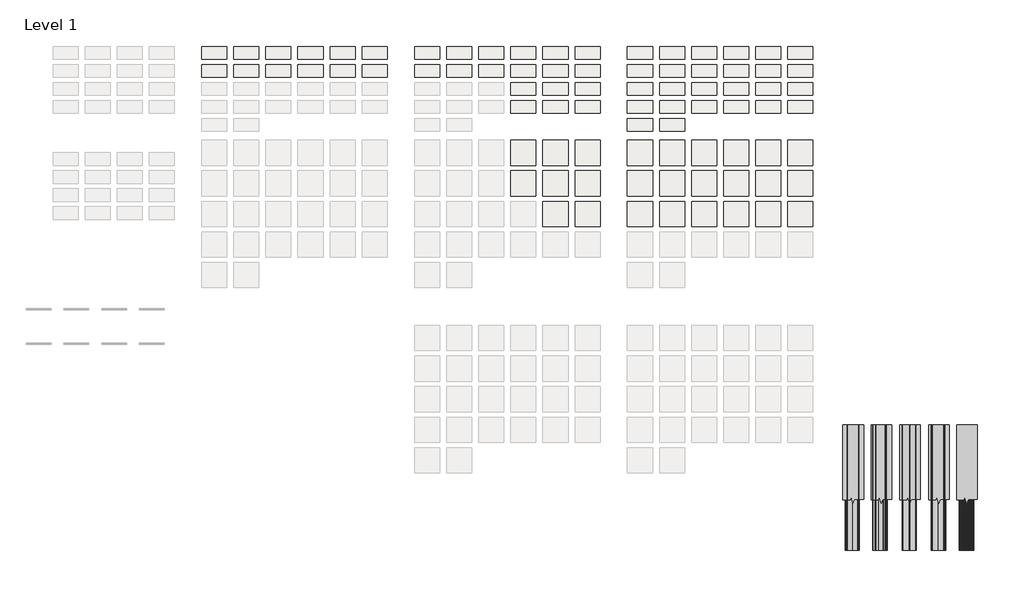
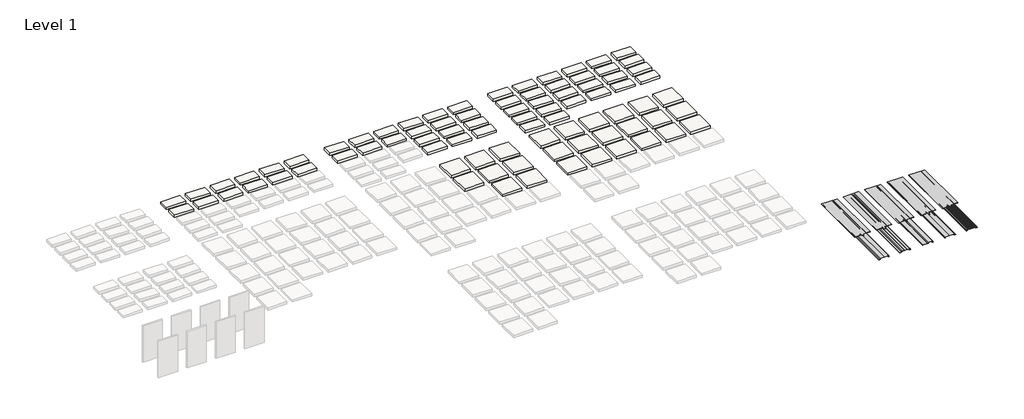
# One storey, part 3 of 3: 82 slabs, 10 proxies.
"""IFC4 building model written with IfcOpenShell, lengths in millimetres."""

from ifc_helpers import new_model, si_unit, frame, origin, place, context, project, spatial, polyline, outline, extrude, transform, mapped, element, save
from components import prestige_series_1in_reveal_flat_panel_aep_span_prestige_8d7ce070, proxy_11bd0d3a, proxy_4d0380a3, prestige_series_no_reveal_flat_panel_aep_span_prestige_570cf8c1, prestige_series_no_reveal_wave_panel_aep_span_prestige_fcddb1ef, section_mask1_section_mask_05ade613, section_mask5_section_mask_89c82928

model = new_model("IFC4")

# Units and contexts
model_context = context("Model", 3, world=origin())
ifc_project = project(units=[si_unit("LENGTHUNIT", "METRE", prefix="MILLI")], contexts=[model_context])

# Site, building, storey
site = spatial("IfcSite", under=ifc_project)
building = spatial("IfcBuilding", under=site)
storey = spatial("IfcBuildingStorey", under=building, Name="Level 1", Elevation=19.05)

# Proxies
placement = place(None, origin())
prestige_series_1in_reveal_flat_panel_aep_span_prestige_shape = prestige_series_1in_reveal_flat_panel_aep_span_prestige_8d7ce070(model_context)
element("IfcBuildingElementProxy", 1, Name="Prestige-Series_1in-Reveal-Flat_Panel_AEP_Span : Prestige Series - 1in Reveal-Flat - 20ga", ObjectType="Prestige-Series_1in-Reveal-Flat_Panel_AEP_Span : Prestige Series - 1in Reveal-Flat - 20ga", at=placement, inside=storey, context=model_context, shape_type="MappedRepresentation", body=[
    mapped(prestige_series_1in_reveal_flat_panel_aep_span_prestige_shape, transform((16097.9412041, -586.3012025, 19.05), x_axis=(1.0, 0.0, 0.0), y_axis=(0.0, 1.0, 0.0), z_axis=(0.0, 0.0, 1.0))),
])
proxy_shape = proxy_11bd0d3a(model_context)
element("IfcBuildingElementProxy", 2, Name="Prestige-Series_2in-Reveal-2-Pencil-Ribs_Panel_AEP_Span : Prestige Series - 2\" Reveal-2 Pencil Ribs - 20ga", ObjectType="Prestige-Series_2in-Reveal-2-Pencil-Ribs_Panel_AEP_Span : Prestige Series - 2\" Reveal-2 Pencil Ribs - 20ga", at=placement, inside=storey, context=model_context, shape_type="MappedRepresentation", body=[
    mapped(proxy_shape, transform((16779.048754, -586.3012025, 19.05), x_axis=(1.0, 0.0, 0.0), y_axis=(0.0, 1.0, 0.0), z_axis=(0.0, 0.0, 1.0))),
])
proxy_2_shape = proxy_4d0380a3(model_context)
element("IfcBuildingElementProxy", 3, Name="Prestige-Series_6in-Reveal-Flat_Panel_AEP_Span : Prestige Series - 6\" Reveal - 20ga", ObjectType="Prestige-Series_6in-Reveal-Flat_Panel_AEP_Span : Prestige Series - 6\" Reveal - 20ga", at=placement, inside=storey, context=model_context, shape_type="MappedRepresentation", body=[
    mapped(proxy_2_shape, transform((17478.2196079, -586.3012025, 19.05), x_axis=(1.0, 0.0, 0.0), y_axis=(0.0, 1.0, 0.0), z_axis=(0.0, 0.0, 1.0))),
])
prestige_series_no_reveal_flat_panel_aep_span_prestige_shape = prestige_series_no_reveal_flat_panel_aep_span_prestige_570cf8c1(model_context)
element("IfcBuildingElementProxy", 4, Name="Prestige-Series_No-Reveal-Flat_Panel_AEP_Span : Prestige Series - No Reveal-Flat - 20ga", ObjectType="Prestige-Series_No-Reveal-Flat_Panel_AEP_Span : Prestige Series - No Reveal-Flat - 20ga", at=placement, inside=storey, context=model_context, shape_type="MappedRepresentation", body=[
    mapped(prestige_series_no_reveal_flat_panel_aep_span_prestige_shape, transform((18177.3904619, -586.3012025, 19.05), x_axis=(1.0, 0.0, 0.0), y_axis=(0.0, 1.0, 0.0), z_axis=(0.0, 0.0, 1.0))),
])
prestige_series_no_reveal_wave_panel_aep_span_prestige_shape = prestige_series_no_reveal_wave_panel_aep_span_prestige_fcddb1ef(model_context)
element("IfcBuildingElementProxy", 5, Name="Prestige-Series_No-Reveal-Wave_Panel_AEP_Span : Prestige-Series_No-Reveal-Wave_Panel_AEP_Span", ObjectType="Prestige-Series_No-Reveal-Wave_Panel_AEP_Span : Prestige-Series_No-Reveal-Wave_Panel_AEP_Span", at=placement, inside=storey, context=model_context, shape_type="MappedRepresentation", body=[
    mapped(prestige_series_no_reveal_wave_panel_aep_span_prestige_shape, transform((18864.1254707, -586.3012025, 19.05), x_axis=(1.0, 0.0, 0.0), y_axis=(0.0, 1.0, 0.0), z_axis=(0.0, 0.0, 1.0))),
])
section_mask1_section_mask_shape = section_mask1_section_mask_05ade613(model_context)
element("IfcBuildingElementProxy", 6, Name="Section Mask1 : Section Mask", ObjectType="Section Mask1 : Section Mask", at=placement, inside=storey, context=model_context, shape_type="MappedRepresentation", body=[
    mapped(section_mask1_section_mask_shape, transform((8596.5810731, -3047.164951, -3.175), x_axis=(1.0, 0.0, 0.0), y_axis=(0.0, 1.0, 0.0), z_axis=(0.0, 0.0, 1.0))),
])
element("IfcBuildingElementProxy", 7, Name="Section Mask2 : Section Mask", ObjectType="Section Mask2 : Section Mask", at=placement, inside=storey, context=model_context, shape_type="MappedRepresentation", body=[
    mapped(section_mask1_section_mask_shape, transform((9287.3673346, -3047.164951, -3.175), x_axis=(1.0, 0.0, 0.0), y_axis=(0.0, 1.0, 0.0), z_axis=(0.0, 0.0, 1.0))),
])
element("IfcBuildingElementProxy", 8, Name="Section Mask3 : Section Mask", ObjectType="Section Mask3 : Section Mask", at=placement, inside=storey, context=model_context, shape_type="MappedRepresentation", body=[
    mapped(section_mask1_section_mask_shape, transform((7906.8362009, -3047.164951, -3.175), x_axis=(1.0, 0.0, 0.0), y_axis=(0.0, 1.0, 0.0), z_axis=(0.0, 0.0, 1.0))),
])
element("IfcBuildingElementProxy", 9, Name="Section Mask4 : Section Mask", ObjectType="Section Mask4 : Section Mask", at=placement, inside=storey, context=model_context, shape_type="MappedRepresentation", body=[
    mapped(section_mask1_section_mask_shape, transform((9992.2173346, -3047.164951, -3.175), x_axis=(1.0, 0.0, 0.0), y_axis=(0.0, 1.0, 0.0), z_axis=(0.0, 0.0, 1.0))),
])
section_mask5_section_mask_shape = section_mask5_section_mask_89c82928(model_context)
element("IfcBuildingElementProxy", 10, Name="Section Mask5 : Section Mask", ObjectType="Section Mask5 : Section Mask", at=placement, inside=storey, context=model_context, shape_type="MappedRepresentation", body=[
    mapped(section_mask5_section_mask_shape, transform((10678.0173346, -3047.164951, -3.175), x_axis=(1.0, 0.0, 0.0), y_axis=(0.0, 1.0, 0.0), z_axis=(0.0, 0.0, 1.0))),
])

# Slabs
element("IfcSlab", 11, ObjectType="AEP Span Material Sample", at=placement, inside=storey, context=model_context, shape_type="SweptSolid", body=[
    extrude(outline(polyline([(857.9412041, 8327.6021167), (248.3412041, 8327.6021167), (248.3412041, 8632.4021167), (857.9412041, 8632.4021167), (857.9412041, 8327.6021167)])), frame((0.0, 0.0, -60.325), z_axis=(0.0, 0.0, 1.0), x_axis=(1.0, 0.0, 0.0)), (0.0, 0.0, 1.0), 79.375),
])
element("IfcSlab", 12, ObjectType="AEP Span Material Sample", at=placement, inside=storey, context=model_context, shape_type="SweptSolid", body=[
    extrude(outline(polyline([(1638.9912041, 8327.6021167), (1029.3912041, 8327.6021167), (1029.3912041, 8632.4021167), (1638.9912041, 8632.4021167), (1638.9912041, 8327.6021167)])), frame((0.0, 0.0, -60.325), z_axis=(0.0, 0.0, 1.0), x_axis=(1.0, 0.0, 0.0)), (0.0, 0.0, 1.0), 79.375),
])
element("IfcSlab", 13, ObjectType="AEP Span Material Sample", at=placement, inside=storey, context=model_context, shape_type="SweptSolid", body=[
    extrude(outline(polyline([(2420.0412041, 8327.6021167), (1810.4412041, 8327.6021167), (1810.4412041, 8632.4021167), (2420.0412041, 8632.4021167), (2420.0412041, 8327.6021167)])), frame((0.0, 0.0, -60.325), z_axis=(0.0, 0.0, 1.0), x_axis=(1.0, 0.0, 0.0)), (0.0, 0.0, 1.0), 79.375),
])
element("IfcSlab", 14, ObjectType="AEP Span Material Sample", at=placement, inside=storey, context=model_context, shape_type="SweptSolid", body=[
    extrude(outline(polyline([(3201.0912041, 8327.6021167), (2591.4912041, 8327.6021167), (2591.4912041, 8632.4021167), (3201.0912041, 8632.4021167), (3201.0912041, 8327.6021167)])), frame((0.0, 0.0, -60.325), z_axis=(0.0, 0.0, 1.0), x_axis=(1.0, 0.0, 0.0)), (0.0, 0.0, 1.0), 79.375),
])
element("IfcSlab", 15, ObjectType="AEP Span Material Sample", at=placement, inside=storey, context=model_context, shape_type="SweptSolid", body=[
    extrude(outline(polyline([(3982.1412041, 8327.6021167), (3372.5412041, 8327.6021167), (3372.5412041, 8632.4021167), (3982.1412041, 8632.4021167), (3982.1412041, 8327.6021167)])), frame((0.0, 0.0, -60.325), z_axis=(0.0, 0.0, 1.0), x_axis=(1.0, 0.0, 0.0)), (0.0, 0.0, 1.0), 79.375),
])
element("IfcSlab", 16, ObjectType="AEP Span Material Sample", at=placement, inside=storey, context=model_context, shape_type="SweptSolid", body=[
    extrude(outline(polyline([(4763.1912041, 8327.6021167), (4153.5912041, 8327.6021167), (4153.5912041, 8632.4021167), (4763.1912041, 8632.4021167), (4763.1912041, 8327.6021167)])), frame((0.0, 0.0, -60.325), z_axis=(0.0, 0.0, 1.0), x_axis=(1.0, 0.0, 0.0)), (0.0, 0.0, 1.0), 79.375),
])
element("IfcSlab", 17, ObjectType="AEP Span Material Sample", at=placement, inside=storey, context=model_context, shape_type="SweptSolid", body=[
    extrude(outline(polyline([(857.9412041, 7889.4521167), (248.3412041, 7889.4521167), (248.3412041, 8194.2521167), (857.9412041, 8194.2521167), (857.9412041, 7889.4521167)])), frame((0.0, 0.0, -60.325), z_axis=(0.0, 0.0, 1.0), x_axis=(1.0, 0.0, 0.0)), (0.0, 0.0, 1.0), 79.375),
])
element("IfcSlab", 18, ObjectType="AEP Span Material Sample", at=placement, inside=storey, context=model_context, shape_type="SweptSolid", body=[
    extrude(outline(polyline([(1638.9912041, 7889.4521167), (1029.3912041, 7889.4521167), (1029.3912041, 8194.2521167), (1638.9912041, 8194.2521167), (1638.9912041, 7889.4521167)])), frame((0.0, 0.0, -60.325), z_axis=(0.0, 0.0, 1.0), x_axis=(1.0, 0.0, 0.0)), (0.0, 0.0, 1.0), 79.375),
])
element("IfcSlab", 19, ObjectType="AEP Span Material Sample", at=placement, inside=storey, context=model_context, shape_type="SweptSolid", body=[
    extrude(outline(polyline([(2420.0412041, 7889.4521167), (1810.4412041, 7889.4521167), (1810.4412041, 8194.2521167), (2420.0412041, 8194.2521167), (2420.0412041, 7889.4521167)])), frame((0.0, 0.0, -60.325), z_axis=(0.0, 0.0, 1.0), x_axis=(1.0, 0.0, 0.0)), (0.0, 0.0, 1.0), 79.375),
])
element("IfcSlab", 20, ObjectType="AEP Span Material Sample", at=placement, inside=storey, context=model_context, shape_type="SweptSolid", body=[
    extrude(outline(polyline([(3201.0912041, 7889.4521167), (2591.4912041, 7889.4521167), (2591.4912041, 8194.2521167), (3201.0912041, 8194.2521167), (3201.0912041, 7889.4521167)])), frame((0.0, 0.0, -60.325), z_axis=(0.0, 0.0, 1.0), x_axis=(1.0, 0.0, 0.0)), (0.0, 0.0, 1.0), 79.375),
])
element("IfcSlab", 21, ObjectType="AEP Span Material Sample", at=placement, inside=storey, context=model_context, shape_type="SweptSolid", body=[
    extrude(outline(polyline([(3982.1412041, 7889.4521167), (3372.5412041, 7889.4521167), (3372.5412041, 8194.2521167), (3982.1412041, 8194.2521167), (3982.1412041, 7889.4521167)])), frame((0.0, 0.0, -60.325), z_axis=(0.0, 0.0, 1.0), x_axis=(1.0, 0.0, 0.0)), (0.0, 0.0, 1.0), 79.375),
])
element("IfcSlab", 22, ObjectType="AEP Span Material Sample", at=placement, inside=storey, context=model_context, shape_type="SweptSolid", body=[
    extrude(outline(polyline([(4763.1912041, 7889.4521167), (4153.5912041, 7889.4521167), (4153.5912041, 8194.2521167), (4763.1912041, 8194.2521167), (4763.1912041, 7889.4521167)])), frame((0.0, 0.0, -60.325), z_axis=(0.0, 0.0, 1.0), x_axis=(1.0, 0.0, 0.0)), (0.0, 0.0, 1.0), 79.375),
])
element("IfcSlab", 23, ObjectType="AEP Span Material Sample", at=placement, inside=storey, context=model_context, shape_type="SweptSolid", body=[
    extrude(outline(polyline([(6040.5423483, 8327.6021167), (5430.9423483, 8327.6021167), (5430.9423483, 8632.4021167), (6040.5423483, 8632.4021167), (6040.5423483, 8327.6021167)])), frame((0.0, 0.0, -60.325), z_axis=(0.0, 0.0, 1.0), x_axis=(1.0, 0.0, 0.0)), (0.0, 0.0, 1.0), 79.375),
])
element("IfcSlab", 24, ObjectType="AEP Span Material Sample", at=placement, inside=storey, context=model_context, shape_type="SweptSolid", body=[
    extrude(outline(polyline([(6821.5923483, 8327.6021167), (6211.9923483, 8327.6021167), (6211.9923483, 8632.4021167), (6821.5923483, 8632.4021167), (6821.5923483, 8327.6021167)])), frame((0.0, 0.0, -60.325), z_axis=(0.0, 0.0, 1.0), x_axis=(1.0, 0.0, 0.0)), (0.0, 0.0, 1.0), 79.375),
])
element("IfcSlab", 25, ObjectType="AEP Span Material Sample", at=placement, inside=storey, context=model_context, shape_type="SweptSolid", body=[
    extrude(outline(polyline([(7602.6423483, 8327.6021167), (6993.0423483, 8327.6021167), (6993.0423483, 8632.4021167), (7602.6423483, 8632.4021167), (7602.6423483, 8327.6021167)])), frame((0.0, 0.0, -60.325), z_axis=(0.0, 0.0, 1.0), x_axis=(1.0, 0.0, 0.0)), (0.0, 0.0, 1.0), 79.375),
])
element("IfcSlab", 26, ObjectType="AEP Span Material Sample", at=placement, inside=storey, context=model_context, shape_type="SweptSolid", body=[
    extrude(outline(polyline([(8383.6923483, 8327.6021167), (7774.0923483, 8327.6021167), (7774.0923483, 8632.4021167), (8383.6923483, 8632.4021167), (8383.6923483, 8327.6021167)])), frame((0.0, 0.0, -60.325), z_axis=(0.0, 0.0, 1.0), x_axis=(1.0, 0.0, 0.0)), (0.0, 0.0, 1.0), 79.375),
])
element("IfcSlab", 27, ObjectType="AEP Span Material Sample", at=placement, inside=storey, context=model_context, shape_type="SweptSolid", body=[
    extrude(outline(polyline([(9164.7423483, 8327.6021167), (8555.1423483, 8327.6021167), (8555.1423483, 8632.4021167), (9164.7423483, 8632.4021167), (9164.7423483, 8327.6021167)])), frame((0.0, 0.0, -60.325), z_axis=(0.0, 0.0, 1.0), x_axis=(1.0, 0.0, 0.0)), (0.0, 0.0, 1.0), 79.375),
])
element("IfcSlab", 28, ObjectType="AEP Span Material Sample", at=placement, inside=storey, context=model_context, shape_type="SweptSolid", body=[
    extrude(outline(polyline([(9945.7923483, 8327.6021167), (9336.1923483, 8327.6021167), (9336.1923483, 8632.4021167), (9945.7923483, 8632.4021167), (9945.7923483, 8327.6021167)])), frame((0.0, 0.0, -60.325), z_axis=(0.0, 0.0, 1.0), x_axis=(1.0, 0.0, 0.0)), (0.0, 0.0, 1.0), 79.375),
])
element("IfcSlab", 29, ObjectType="AEP Span Material Sample", at=placement, inside=storey, context=model_context, shape_type="SweptSolid", body=[
    extrude(outline(polyline([(6040.5423483, 7889.4521167), (5430.9423483, 7889.4521167), (5430.9423483, 8194.2521167), (6040.5423483, 8194.2521167), (6040.5423483, 7889.4521167)])), frame((0.0, 0.0, -60.325), z_axis=(0.0, 0.0, 1.0), x_axis=(1.0, 0.0, 0.0)), (0.0, 0.0, 1.0), 79.375),
])
element("IfcSlab", 30, ObjectType="AEP Span Material Sample", at=placement, inside=storey, context=model_context, shape_type="SweptSolid", body=[
    extrude(outline(polyline([(6821.5923483, 7889.4521167), (6211.9923483, 7889.4521167), (6211.9923483, 8194.2521167), (6821.5923483, 8194.2521167), (6821.5923483, 7889.4521167)])), frame((0.0, 0.0, -60.325), z_axis=(0.0, 0.0, 1.0), x_axis=(1.0, 0.0, 0.0)), (0.0, 0.0, 1.0), 79.375),
])
element("IfcSlab", 31, ObjectType="AEP Span Material Sample", at=placement, inside=storey, context=model_context, shape_type="SweptSolid", body=[
    extrude(outline(polyline([(7602.6423483, 7889.4521167), (6993.0423483, 7889.4521167), (6993.0423483, 8194.2521167), (7602.6423483, 8194.2521167), (7602.6423483, 7889.4521167)])), frame((0.0, 0.0, -60.325), z_axis=(0.0, 0.0, 1.0), x_axis=(1.0, 0.0, 0.0)), (0.0, 0.0, 1.0), 79.375),
])
element("IfcSlab", 32, ObjectType="AEP Span Material Sample", at=placement, inside=storey, context=model_context, shape_type="SweptSolid", body=[
    extrude(outline(polyline([(8383.6923483, 7889.4521167), (7774.0923483, 7889.4521167), (7774.0923483, 8194.2521167), (8383.6923483, 8194.2521167), (8383.6923483, 7889.4521167)])), frame((0.0, 0.0, -60.325), z_axis=(0.0, 0.0, 1.0), x_axis=(1.0, 0.0, 0.0)), (0.0, 0.0, 1.0), 79.375),
])
element("IfcSlab", 33, ObjectType="AEP Span Material Sample", at=placement, inside=storey, context=model_context, shape_type="SweptSolid", body=[
    extrude(outline(polyline([(9164.7423483, 7889.4521167), (8555.1423483, 7889.4521167), (8555.1423483, 8194.2521167), (9164.7423483, 8194.2521167), (9164.7423483, 7889.4521167)])), frame((0.0, 0.0, -60.325), z_axis=(0.0, 0.0, 1.0), x_axis=(1.0, 0.0, 0.0)), (0.0, 0.0, 1.0), 79.375),
])
element("IfcSlab", 34, ObjectType="AEP Span Material Sample", at=placement, inside=storey, context=model_context, shape_type="SweptSolid", body=[
    extrude(outline(polyline([(9945.7923483, 7889.4521167), (9336.1923483, 7889.4521167), (9336.1923483, 8194.2521167), (9945.7923483, 8194.2521167), (9945.7923483, 7889.4521167)])), frame((0.0, 0.0, -60.325), z_axis=(0.0, 0.0, 1.0), x_axis=(1.0, 0.0, 0.0)), (0.0, 0.0, 1.0), 79.375),
])
element("IfcSlab", 35, ObjectType="AEP Span Material Sample", at=placement, inside=storey, context=model_context, shape_type="SweptSolid", body=[
    extrude(outline(polyline([(8383.6923483, 7451.3021167), (7774.0923483, 7451.3021167), (7774.0923483, 7756.1021167), (8383.6923483, 7756.1021167), (8383.6923483, 7451.3021167)])), frame((0.0, 0.0, -60.325), z_axis=(0.0, 0.0, 1.0), x_axis=(1.0, 0.0, 0.0)), (0.0, 0.0, 1.0), 79.375),
])
element("IfcSlab", 36, ObjectType="AEP Span Material Sample", at=placement, inside=storey, context=model_context, shape_type="SweptSolid", body=[
    extrude(outline(polyline([(9164.7423483, 7451.3021167), (8555.1423483, 7451.3021167), (8555.1423483, 7756.1021167), (9164.7423483, 7756.1021167), (9164.7423483, 7451.3021167)])), frame((0.0, 0.0, -60.325), z_axis=(0.0, 0.0, 1.0), x_axis=(1.0, 0.0, 0.0)), (0.0, 0.0, 1.0), 79.375),
])
element("IfcSlab", 37, ObjectType="AEP Span Material Sample", at=placement, inside=storey, context=model_context, shape_type="SweptSolid", body=[
    extrude(outline(polyline([(9945.7923483, 7451.3021167), (9336.1923483, 7451.3021167), (9336.1923483, 7756.1021167), (9945.7923483, 7756.1021167), (9945.7923483, 7451.3021167)])), frame((0.0, 0.0, -60.325), z_axis=(0.0, 0.0, 1.0), x_axis=(1.0, 0.0, 0.0)), (0.0, 0.0, 1.0), 79.375),
])
element("IfcSlab", 38, ObjectType="AEP Span Material Sample", at=placement, inside=storey, context=model_context, shape_type="SweptSolid", body=[
    extrude(outline(polyline([(8383.6923483, 7013.1521167), (7774.0923483, 7013.1521167), (7774.0923483, 7317.9521167), (8383.6923483, 7317.9521167), (8383.6923483, 7013.1521167)])), frame((0.0, 0.0, -60.325), z_axis=(0.0, 0.0, 1.0), x_axis=(1.0, 0.0, 0.0)), (0.0, 0.0, 1.0), 79.375),
])
element("IfcSlab", 39, ObjectType="AEP Span Material Sample", at=placement, inside=storey, context=model_context, shape_type="SweptSolid", body=[
    extrude(outline(polyline([(9164.7423483, 7013.1521167), (8555.1423483, 7013.1521167), (8555.1423483, 7317.9521167), (9164.7423483, 7317.9521167), (9164.7423483, 7013.1521167)])), frame((0.0, 0.0, -60.325), z_axis=(0.0, 0.0, 1.0), x_axis=(1.0, 0.0, 0.0)), (0.0, 0.0, 1.0), 79.375),
])
element("IfcSlab", 40, ObjectType="AEP Span Material Sample", at=placement, inside=storey, context=model_context, shape_type="SweptSolid", body=[
    extrude(outline(polyline([(9945.7923483, 7013.1521167), (9336.1923483, 7013.1521167), (9336.1923483, 7317.9521167), (9945.7923483, 7317.9521167), (9945.7923483, 7013.1521167)])), frame((0.0, 0.0, -60.325), z_axis=(0.0, 0.0, 1.0), x_axis=(1.0, 0.0, 0.0)), (0.0, 0.0, 1.0), 79.375),
])
element("IfcSlab", 41, ObjectType="AEP Span Material Sample", at=placement, inside=storey, context=model_context, shape_type="SweptSolid", body=[
    extrude(outline(polyline([(11221.1412041, 8327.6021167), (10611.5412041, 8327.6021167), (10611.5412041, 8632.4021167), (11221.1412041, 8632.4021167), (11221.1412041, 8327.6021167)])), frame((0.0, 0.0, -60.325), z_axis=(0.0, 0.0, 1.0), x_axis=(1.0, 0.0, 0.0)), (0.0, 0.0, 1.0), 79.375),
])
element("IfcSlab", 42, ObjectType="AEP Span Material Sample", at=placement, inside=storey, context=model_context, shape_type="SweptSolid", body=[
    extrude(outline(polyline([(12002.1912041, 8327.6021167), (11392.5912041, 8327.6021167), (11392.5912041, 8632.4021167), (12002.1912041, 8632.4021167), (12002.1912041, 8327.6021167)])), frame((0.0, 0.0, -60.325), z_axis=(0.0, 0.0, 1.0), x_axis=(1.0, 0.0, 0.0)), (0.0, 0.0, 1.0), 79.375),
])
element("IfcSlab", 43, ObjectType="AEP Span Material Sample", at=placement, inside=storey, context=model_context, shape_type="SweptSolid", body=[
    extrude(outline(polyline([(12783.2412041, 8327.6021167), (12173.6412041, 8327.6021167), (12173.6412041, 8632.4021167), (12783.2412041, 8632.4021167), (12783.2412041, 8327.6021167)])), frame((0.0, 0.0, -60.325), z_axis=(0.0, 0.0, 1.0), x_axis=(1.0, 0.0, 0.0)), (0.0, 0.0, 1.0), 79.375),
])
element("IfcSlab", 44, ObjectType="AEP Span Material Sample", at=placement, inside=storey, context=model_context, shape_type="SweptSolid", body=[
    extrude(outline(polyline([(13564.2912041, 8327.6021167), (12954.6912041, 8327.6021167), (12954.6912041, 8632.4021167), (13564.2912041, 8632.4021167), (13564.2912041, 8327.6021167)])), frame((0.0, 0.0, -60.325), z_axis=(0.0, 0.0, 1.0), x_axis=(1.0, 0.0, 0.0)), (0.0, 0.0, 1.0), 79.375),
])
element("IfcSlab", 45, ObjectType="AEP Span Material Sample", at=placement, inside=storey, context=model_context, shape_type="SweptSolid", body=[
    extrude(outline(polyline([(14345.3412041, 8327.6021167), (13735.7412041, 8327.6021167), (13735.7412041, 8632.4021167), (14345.3412041, 8632.4021167), (14345.3412041, 8327.6021167)])), frame((0.0, 0.0, -60.325), z_axis=(0.0, 0.0, 1.0), x_axis=(1.0, 0.0, 0.0)), (0.0, 0.0, 1.0), 79.375),
])
element("IfcSlab", 46, ObjectType="AEP Span Material Sample", at=placement, inside=storey, context=model_context, shape_type="SweptSolid", body=[
    extrude(outline(polyline([(15126.3912041, 8327.6021167), (14516.7912041, 8327.6021167), (14516.7912041, 8632.4021167), (15126.3912041, 8632.4021167), (15126.3912041, 8327.6021167)])), frame((0.0, 0.0, -60.325), z_axis=(0.0, 0.0, 1.0), x_axis=(1.0, 0.0, 0.0)), (0.0, 0.0, 1.0), 79.375),
])
element("IfcSlab", 47, ObjectType="AEP Span Material Sample", at=placement, inside=storey, context=model_context, shape_type="SweptSolid", body=[
    extrude(outline(polyline([(11221.1412041, 7889.4521167), (10611.5412041, 7889.4521167), (10611.5412041, 8194.2521167), (11221.1412041, 8194.2521167), (11221.1412041, 7889.4521167)])), frame((0.0, 0.0, -60.325), z_axis=(0.0, 0.0, 1.0), x_axis=(1.0, 0.0, 0.0)), (0.0, 0.0, 1.0), 79.375),
])
element("IfcSlab", 48, ObjectType="AEP Span Material Sample", at=placement, inside=storey, context=model_context, shape_type="SweptSolid", body=[
    extrude(outline(polyline([(12002.1912041, 7889.4521167), (11392.5912041, 7889.4521167), (11392.5912041, 8194.2521167), (12002.1912041, 8194.2521167), (12002.1912041, 7889.4521167)])), frame((0.0, 0.0, -60.325), z_axis=(0.0, 0.0, 1.0), x_axis=(1.0, 0.0, 0.0)), (0.0, 0.0, 1.0), 79.375),
])
element("IfcSlab", 49, ObjectType="AEP Span Material Sample", at=placement, inside=storey, context=model_context, shape_type="SweptSolid", body=[
    extrude(outline(polyline([(12783.2412041, 7889.4521167), (12173.6412041, 7889.4521167), (12173.6412041, 8194.2521167), (12783.2412041, 8194.2521167), (12783.2412041, 7889.4521167)])), frame((0.0, 0.0, -60.325), z_axis=(0.0, 0.0, 1.0), x_axis=(1.0, 0.0, 0.0)), (0.0, 0.0, 1.0), 79.375),
])
element("IfcSlab", 50, ObjectType="AEP Span Material Sample", at=placement, inside=storey, context=model_context, shape_type="SweptSolid", body=[
    extrude(outline(polyline([(13564.2912041, 7889.4521167), (12954.6912041, 7889.4521167), (12954.6912041, 8194.2521167), (13564.2912041, 8194.2521167), (13564.2912041, 7889.4521167)])), frame((0.0, 0.0, -60.325), z_axis=(0.0, 0.0, 1.0), x_axis=(1.0, 0.0, 0.0)), (0.0, 0.0, 1.0), 79.375),
])
element("IfcSlab", 51, ObjectType="AEP Span Material Sample", at=placement, inside=storey, context=model_context, shape_type="SweptSolid", body=[
    extrude(outline(polyline([(14345.3412041, 7889.4521167), (13735.7412041, 7889.4521167), (13735.7412041, 8194.2521167), (14345.3412041, 8194.2521167), (14345.3412041, 7889.4521167)])), frame((0.0, 0.0, -60.325), z_axis=(0.0, 0.0, 1.0), x_axis=(1.0, 0.0, 0.0)), (0.0, 0.0, 1.0), 79.375),
])
element("IfcSlab", 52, ObjectType="AEP Span Material Sample", at=placement, inside=storey, context=model_context, shape_type="SweptSolid", body=[
    extrude(outline(polyline([(15126.3912041, 7889.4521167), (14516.7912041, 7889.4521167), (14516.7912041, 8194.2521167), (15126.3912041, 8194.2521167), (15126.3912041, 7889.4521167)])), frame((0.0, 0.0, -60.325), z_axis=(0.0, 0.0, 1.0), x_axis=(1.0, 0.0, 0.0)), (0.0, 0.0, 1.0), 79.375),
])
element("IfcSlab", 53, ObjectType="AEP Span Material Sample", at=placement, inside=storey, context=model_context, shape_type="SweptSolid", body=[
    extrude(outline(polyline([(11221.1412041, 7451.3021167), (10611.5412041, 7451.3021167), (10611.5412041, 7756.1021167), (11221.1412041, 7756.1021167), (11221.1412041, 7451.3021167)])), frame((0.0, 0.0, -60.325), z_axis=(0.0, 0.0, 1.0), x_axis=(1.0, 0.0, 0.0)), (0.0, 0.0, 1.0), 79.375),
])
element("IfcSlab", 54, ObjectType="AEP Span Material Sample", at=placement, inside=storey, context=model_context, shape_type="SweptSolid", body=[
    extrude(outline(polyline([(12002.1912041, 7451.3021167), (11392.5912041, 7451.3021167), (11392.5912041, 7756.1021167), (12002.1912041, 7756.1021167), (12002.1912041, 7451.3021167)])), frame((0.0, 0.0, -60.325), z_axis=(0.0, 0.0, 1.0), x_axis=(1.0, 0.0, 0.0)), (0.0, 0.0, 1.0), 79.375),
])
element("IfcSlab", 55, ObjectType="AEP Span Material Sample", at=placement, inside=storey, context=model_context, shape_type="SweptSolid", body=[
    extrude(outline(polyline([(12783.2412041, 7451.3021167), (12173.6412041, 7451.3021167), (12173.6412041, 7756.1021167), (12783.2412041, 7756.1021167), (12783.2412041, 7451.3021167)])), frame((0.0, 0.0, -60.325), z_axis=(0.0, 0.0, 1.0), x_axis=(1.0, 0.0, 0.0)), (0.0, 0.0, 1.0), 79.375),
])
element("IfcSlab", 56, ObjectType="AEP Span Material Sample", at=placement, inside=storey, context=model_context, shape_type="SweptSolid", body=[
    extrude(outline(polyline([(13564.2912041, 7451.3021167), (12954.6912041, 7451.3021167), (12954.6912041, 7756.1021167), (13564.2912041, 7756.1021167), (13564.2912041, 7451.3021167)])), frame((0.0, 0.0, -60.325), z_axis=(0.0, 0.0, 1.0), x_axis=(1.0, 0.0, 0.0)), (0.0, 0.0, 1.0), 79.375),
])
element("IfcSlab", 57, ObjectType="AEP Span Material Sample", at=placement, inside=storey, context=model_context, shape_type="SweptSolid", body=[
    extrude(outline(polyline([(14345.3412041, 7451.3021167), (13735.7412041, 7451.3021167), (13735.7412041, 7756.1021167), (14345.3412041, 7756.1021167), (14345.3412041, 7451.3021167)])), frame((0.0, 0.0, -60.325), z_axis=(0.0, 0.0, 1.0), x_axis=(1.0, 0.0, 0.0)), (0.0, 0.0, 1.0), 79.375),
])
element("IfcSlab", 58, ObjectType="AEP Span Material Sample", at=placement, inside=storey, context=model_context, shape_type="SweptSolid", body=[
    extrude(outline(polyline([(15126.3912041, 7451.3021167), (14516.7912041, 7451.3021167), (14516.7912041, 7756.1021167), (15126.3912041, 7756.1021167), (15126.3912041, 7451.3021167)])), frame((0.0, 0.0, -60.325), z_axis=(0.0, 0.0, 1.0), x_axis=(1.0, 0.0, 0.0)), (0.0, 0.0, 1.0), 79.375),
])
element("IfcSlab", 59, ObjectType="AEP Span Material Sample", at=placement, inside=storey, context=model_context, shape_type="SweptSolid", body=[
    extrude(outline(polyline([(11221.1412041, 7013.1521167), (10611.5412041, 7013.1521167), (10611.5412041, 7317.9521167), (11221.1412041, 7317.9521167), (11221.1412041, 7013.1521167)])), frame((0.0, 0.0, -60.325), z_axis=(0.0, 0.0, 1.0), x_axis=(1.0, 0.0, 0.0)), (0.0, 0.0, 1.0), 79.375),
])
element("IfcSlab", 60, ObjectType="AEP Span Material Sample", at=placement, inside=storey, context=model_context, shape_type="SweptSolid", body=[
    extrude(outline(polyline([(12002.1912041, 7013.1521167), (11392.5912041, 7013.1521167), (11392.5912041, 7317.9521167), (12002.1912041, 7317.9521167), (12002.1912041, 7013.1521167)])), frame((0.0, 0.0, -60.325), z_axis=(0.0, 0.0, 1.0), x_axis=(1.0, 0.0, 0.0)), (0.0, 0.0, 1.0), 79.375),
])
element("IfcSlab", 61, ObjectType="AEP Span Material Sample", at=placement, inside=storey, context=model_context, shape_type="SweptSolid", body=[
    extrude(outline(polyline([(12783.2412041, 7013.1521167), (12173.6412041, 7013.1521167), (12173.6412041, 7317.9521167), (12783.2412041, 7317.9521167), (12783.2412041, 7013.1521167)])), frame((0.0, 0.0, -60.325), z_axis=(0.0, 0.0, 1.0), x_axis=(1.0, 0.0, 0.0)), (0.0, 0.0, 1.0), 79.375),
])
element("IfcSlab", 62, ObjectType="AEP Span Material Sample", at=placement, inside=storey, context=model_context, shape_type="SweptSolid", body=[
    extrude(outline(polyline([(13564.2912041, 7013.1521167), (12954.6912041, 7013.1521167), (12954.6912041, 7317.9521167), (13564.2912041, 7317.9521167), (13564.2912041, 7013.1521167)])), frame((0.0, 0.0, -60.325), z_axis=(0.0, 0.0, 1.0), x_axis=(1.0, 0.0, 0.0)), (0.0, 0.0, 1.0), 79.375),
])
element("IfcSlab", 63, ObjectType="AEP Span Material Sample", at=placement, inside=storey, context=model_context, shape_type="SweptSolid", body=[
    extrude(outline(polyline([(14345.3412041, 7013.1521167), (13735.7412041, 7013.1521167), (13735.7412041, 7317.9521167), (14345.3412041, 7317.9521167), (14345.3412041, 7013.1521167)])), frame((0.0, 0.0, -60.325), z_axis=(0.0, 0.0, 1.0), x_axis=(1.0, 0.0, 0.0)), (0.0, 0.0, 1.0), 79.375),
])
element("IfcSlab", 64, ObjectType="AEP Span Material Sample", at=placement, inside=storey, context=model_context, shape_type="SweptSolid", body=[
    extrude(outline(polyline([(15126.3912041, 7013.1521167), (14516.7912041, 7013.1521167), (14516.7912041, 7317.9521167), (15126.3912041, 7317.9521167), (15126.3912041, 7013.1521167)])), frame((0.0, 0.0, -60.325), z_axis=(0.0, 0.0, 1.0), x_axis=(1.0, 0.0, 0.0)), (0.0, 0.0, 1.0), 79.375),
])
element("IfcSlab", 65, ObjectType="AEP Span Material Sample", at=placement, inside=storey, context=model_context, shape_type="SweptSolid", body=[
    extrude(outline(polyline([(11221.1412041, 6575.0021167), (10611.5412041, 6575.0021167), (10611.5412041, 6879.8021167), (11221.1412041, 6879.8021167), (11221.1412041, 6575.0021167)])), frame((0.0, 0.0, -60.325), z_axis=(0.0, 0.0, 1.0), x_axis=(1.0, 0.0, 0.0)), (0.0, 0.0, 1.0), 79.375),
])
element("IfcSlab", 66, ObjectType="AEP Span Material Sample", at=placement, inside=storey, context=model_context, shape_type="SweptSolid", body=[
    extrude(outline(polyline([(12002.1912041, 6575.0021167), (11392.5912041, 6575.0021167), (11392.5912041, 6879.8021167), (12002.1912041, 6879.8021167), (12002.1912041, 6575.0021167)])), frame((0.0, 0.0, -60.325), z_axis=(0.0, 0.0, 1.0), x_axis=(1.0, 0.0, 0.0)), (0.0, 0.0, 1.0), 79.375),
])
element("IfcSlab", 67, ObjectType="AEP Span Material Sample", at=placement, inside=storey, context=model_context, shape_type="SweptSolid", body=[
    extrude(outline(polyline([(8383.6923483, 5736.8021167), (7774.0923483, 5736.8021167), (7774.0923483, 6346.4021167), (8383.6923483, 6346.4021167), (8383.6923483, 5736.8021167)])), frame((0.0, 0.0, -60.325), z_axis=(0.0, 0.0, 1.0), x_axis=(1.0, 0.0, 0.0)), (0.0, 0.0, 1.0), 79.375),
])
element("IfcSlab", 68, ObjectType="AEP Span Material Sample", at=placement, inside=storey, context=model_context, shape_type="SweptSolid", body=[
    extrude(outline(polyline([(9164.7423483, 5736.8021167), (8555.1423483, 5736.8021167), (8555.1423483, 6346.4021167), (9164.7423483, 6346.4021167), (9164.7423483, 5736.8021167)])), frame((0.0, 0.0, -60.325), z_axis=(0.0, 0.0, 1.0), x_axis=(1.0, 0.0, 0.0)), (0.0, 0.0, 1.0), 79.375),
])
element("IfcSlab", 69, ObjectType="AEP Span Material Sample", at=placement, inside=storey, context=model_context, shape_type="SweptSolid", body=[
    extrude(outline(polyline([(9945.7923483, 5736.8021167), (9336.1923483, 5736.8021167), (9336.1923483, 6346.4021167), (9945.7923483, 6346.4021167), (9945.7923483, 5736.8021167)])), frame((0.0, 0.0, -60.325), z_axis=(0.0, 0.0, 1.0), x_axis=(1.0, 0.0, 0.0)), (0.0, 0.0, 1.0), 79.375),
])
element("IfcSlab", 70, ObjectType="AEP Span Material Sample", at=placement, inside=storey, context=model_context, shape_type="SweptSolid", body=[
    extrude(outline(polyline([(8383.6923483, 4993.8521167), (7774.0923483, 4993.8521167), (7774.0923483, 5603.4521167), (8383.6923483, 5603.4521167), (8383.6923483, 4993.8521167)])), frame((0.0, 0.0, -60.325), z_axis=(0.0, 0.0, 1.0), x_axis=(1.0, 0.0, 0.0)), (0.0, 0.0, 1.0), 79.375),
])
element("IfcSlab", 71, ObjectType="AEP Span Material Sample", at=placement, inside=storey, context=model_context, shape_type="SweptSolid", body=[
    extrude(outline(polyline([(9164.7423483, 4993.8521167), (8555.1423483, 4993.8521167), (8555.1423483, 5603.4521167), (9164.7423483, 5603.4521167), (9164.7423483, 4993.8521167)])), frame((0.0, 0.0, -60.325), z_axis=(0.0, 0.0, 1.0), x_axis=(1.0, 0.0, 0.0)), (0.0, 0.0, 1.0), 79.375),
])
element("IfcSlab", 72, ObjectType="AEP Span Material Sample", at=placement, inside=storey, context=model_context, shape_type="SweptSolid", body=[
    extrude(outline(polyline([(9945.7923483, 4993.8521167), (9336.1923483, 4993.8521167), (9336.1923483, 5603.4521167), (9945.7923483, 5603.4521167), (9945.7923483, 4993.8521167)])), frame((0.0, 0.0, -60.325), z_axis=(0.0, 0.0, 1.0), x_axis=(1.0, 0.0, 0.0)), (0.0, 0.0, 1.0), 79.375),
])
element("IfcSlab", 73, ObjectType="AEP Span Material Sample", at=placement, inside=storey, context=model_context, shape_type="SweptSolid", body=[
    extrude(outline(polyline([(9164.7423483, 4250.9021167), (8555.1423483, 4250.9021167), (8555.1423483, 4860.5021167), (9164.7423483, 4860.5021167), (9164.7423483, 4250.9021167)])), frame((0.0, 0.0, -60.325), z_axis=(0.0, 0.0, 1.0), x_axis=(1.0, 0.0, 0.0)), (0.0, 0.0, 1.0), 79.375),
])
element("IfcSlab", 74, ObjectType="AEP Span Material Sample", at=placement, inside=storey, context=model_context, shape_type="SweptSolid", body=[
    extrude(outline(polyline([(9945.7923483, 4250.9021167), (9336.1923483, 4250.9021167), (9336.1923483, 4860.5021167), (9945.7923483, 4860.5021167), (9945.7923483, 4250.9021167)])), frame((0.0, 0.0, -60.325), z_axis=(0.0, 0.0, 1.0), x_axis=(1.0, 0.0, 0.0)), (0.0, 0.0, 1.0), 79.375),
])
element("IfcSlab", 75, ObjectType="AEP Span Material Sample", at=placement, inside=storey, context=model_context, shape_type="SweptSolid", body=[
    extrude(outline(polyline([(11221.1412041, 5736.8021167), (10611.5412041, 5736.8021167), (10611.5412041, 6346.4021167), (11221.1412041, 6346.4021167), (11221.1412041, 5736.8021167)])), frame((0.0, 0.0, -60.325), z_axis=(0.0, 0.0, 1.0), x_axis=(1.0, 0.0, 0.0)), (0.0, 0.0, 1.0), 79.375),
])
element("IfcSlab", 76, ObjectType="AEP Span Material Sample", at=placement, inside=storey, context=model_context, shape_type="SweptSolid", body=[
    extrude(outline(polyline([(12002.1912041, 5736.8021167), (11392.5912041, 5736.8021167), (11392.5912041, 6346.4021167), (12002.1912041, 6346.4021167), (12002.1912041, 5736.8021167)])), frame((0.0, 0.0, -60.325), z_axis=(0.0, 0.0, 1.0), x_axis=(1.0, 0.0, 0.0)), (0.0, 0.0, 1.0), 79.375),
])
element("IfcSlab", 77, ObjectType="AEP Span Material Sample", at=placement, inside=storey, context=model_context, shape_type="SweptSolid", body=[
    extrude(outline(polyline([(12783.2412041, 5736.8021167), (12173.6412041, 5736.8021167), (12173.6412041, 6346.4021167), (12783.2412041, 6346.4021167), (12783.2412041, 5736.8021167)])), frame((0.0, 0.0, -60.325), z_axis=(0.0, 0.0, 1.0), x_axis=(1.0, 0.0, 0.0)), (0.0, 0.0, 1.0), 79.375),
])
element("IfcSlab", 78, ObjectType="AEP Span Material Sample", at=placement, inside=storey, context=model_context, shape_type="SweptSolid", body=[
    extrude(outline(polyline([(13564.2912041, 5736.8021167), (12954.6912041, 5736.8021167), (12954.6912041, 6346.4021167), (13564.2912041, 6346.4021167), (13564.2912041, 5736.8021167)])), frame((0.0, 0.0, -60.325), z_axis=(0.0, 0.0, 1.0), x_axis=(1.0, 0.0, 0.0)), (0.0, 0.0, 1.0), 79.375),
])
element("IfcSlab", 79, ObjectType="AEP Span Material Sample", at=placement, inside=storey, context=model_context, shape_type="SweptSolid", body=[
    extrude(outline(polyline([(14345.3412041, 5736.8021167), (13735.7412041, 5736.8021167), (13735.7412041, 6346.4021167), (14345.3412041, 6346.4021167), (14345.3412041, 5736.8021167)])), frame((0.0, 0.0, -60.325), z_axis=(0.0, 0.0, 1.0), x_axis=(1.0, 0.0, 0.0)), (0.0, 0.0, 1.0), 79.375),
])
element("IfcSlab", 80, ObjectType="AEP Span Material Sample", at=placement, inside=storey, context=model_context, shape_type="SweptSolid", body=[
    extrude(outline(polyline([(15126.3912041, 5736.8021167), (14516.7912041, 5736.8021167), (14516.7912041, 6346.4021167), (15126.3912041, 6346.4021167), (15126.3912041, 5736.8021167)])), frame((0.0, 0.0, -60.325), z_axis=(0.0, 0.0, 1.0), x_axis=(1.0, 0.0, 0.0)), (0.0, 0.0, 1.0), 79.375),
])
element("IfcSlab", 81, ObjectType="AEP Span Material Sample", at=placement, inside=storey, context=model_context, shape_type="SweptSolid", body=[
    extrude(outline(polyline([(11221.1412041, 4993.8521167), (10611.5412041, 4993.8521167), (10611.5412041, 5603.4521167), (11221.1412041, 5603.4521167), (11221.1412041, 4993.8521167)])), frame((0.0, 0.0, -60.325), z_axis=(0.0, 0.0, 1.0), x_axis=(1.0, 0.0, 0.0)), (0.0, 0.0, 1.0), 79.375),
])
element("IfcSlab", 82, ObjectType="AEP Span Material Sample", at=placement, inside=storey, context=model_context, shape_type="SweptSolid", body=[
    extrude(outline(polyline([(12002.1912041, 4993.8521167), (11392.5912041, 4993.8521167), (11392.5912041, 5603.4521167), (12002.1912041, 5603.4521167), (12002.1912041, 4993.8521167)])), frame((0.0, 0.0, -60.325), z_axis=(0.0, 0.0, 1.0), x_axis=(1.0, 0.0, 0.0)), (0.0, 0.0, 1.0), 79.375),
])
element("IfcSlab", 83, ObjectType="AEP Span Material Sample", at=placement, inside=storey, context=model_context, shape_type="SweptSolid", body=[
    extrude(outline(polyline([(12783.2412041, 4993.8521167), (12173.6412041, 4993.8521167), (12173.6412041, 5603.4521167), (12783.2412041, 5603.4521167), (12783.2412041, 4993.8521167)])), frame((0.0, 0.0, -60.325), z_axis=(0.0, 0.0, 1.0), x_axis=(1.0, 0.0, 0.0)), (0.0, 0.0, 1.0), 79.375),
])
element("IfcSlab", 84, ObjectType="AEP Span Material Sample", at=placement, inside=storey, context=model_context, shape_type="SweptSolid", body=[
    extrude(outline(polyline([(13564.2912041, 4993.8521167), (12954.6912041, 4993.8521167), (12954.6912041, 5603.4521167), (13564.2912041, 5603.4521167), (13564.2912041, 4993.8521167)])), frame((0.0, 0.0, -60.325), z_axis=(0.0, 0.0, 1.0), x_axis=(1.0, 0.0, 0.0)), (0.0, 0.0, 1.0), 79.375),
])
element("IfcSlab", 85, ObjectType="AEP Span Material Sample", at=placement, inside=storey, context=model_context, shape_type="SweptSolid", body=[
    extrude(outline(polyline([(14345.3412041, 4993.8521167), (13735.7412041, 4993.8521167), (13735.7412041, 5603.4521167), (14345.3412041, 5603.4521167), (14345.3412041, 4993.8521167)])), frame((0.0, 0.0, -60.325), z_axis=(0.0, 0.0, 1.0), x_axis=(1.0, 0.0, 0.0)), (0.0, 0.0, 1.0), 79.375),
])
element("IfcSlab", 86, ObjectType="AEP Span Material Sample", at=placement, inside=storey, context=model_context, shape_type="SweptSolid", body=[
    extrude(outline(polyline([(15126.3912041, 4993.8521167), (14516.7912041, 4993.8521167), (14516.7912041, 5603.4521167), (15126.3912041, 5603.4521167), (15126.3912041, 4993.8521167)])), frame((0.0, 0.0, -60.325), z_axis=(0.0, 0.0, 1.0), x_axis=(1.0, 0.0, 0.0)), (0.0, 0.0, 1.0), 79.375),
])
element("IfcSlab", 87, ObjectType="AEP Span Material Sample", at=placement, inside=storey, context=model_context, shape_type="SweptSolid", body=[
    extrude(outline(polyline([(11221.1412041, 4250.9021167), (10611.5412041, 4250.9021167), (10611.5412041, 4860.5021167), (11221.1412041, 4860.5021167), (11221.1412041, 4250.9021167)])), frame((0.0, 0.0, -60.325), z_axis=(0.0, 0.0, 1.0), x_axis=(1.0, 0.0, 0.0)), (0.0, 0.0, 1.0), 79.375),
])
element("IfcSlab", 88, ObjectType="AEP Span Material Sample", at=placement, inside=storey, context=model_context, shape_type="SweptSolid", body=[
    extrude(outline(polyline([(12002.1912041, 4250.9021167), (11392.5912041, 4250.9021167), (11392.5912041, 4860.5021167), (12002.1912041, 4860.5021167), (12002.1912041, 4250.9021167)])), frame((0.0, 0.0, -60.325), z_axis=(0.0, 0.0, 1.0), x_axis=(1.0, 0.0, 0.0)), (0.0, 0.0, 1.0), 79.375),
])
element("IfcSlab", 89, ObjectType="AEP Span Material Sample", at=placement, inside=storey, context=model_context, shape_type="SweptSolid", body=[
    extrude(outline(polyline([(12783.2412041, 4250.9021167), (12173.6412041, 4250.9021167), (12173.6412041, 4860.5021167), (12783.2412041, 4860.5021167), (12783.2412041, 4250.9021167)])), frame((0.0, 0.0, -60.325), z_axis=(0.0, 0.0, 1.0), x_axis=(1.0, 0.0, 0.0)), (0.0, 0.0, 1.0), 79.375),
])
element("IfcSlab", 90, ObjectType="AEP Span Material Sample", at=placement, inside=storey, context=model_context, shape_type="SweptSolid", body=[
    extrude(outline(polyline([(13564.2912041, 4250.9021167), (12954.6912041, 4250.9021167), (12954.6912041, 4860.5021167), (13564.2912041, 4860.5021167), (13564.2912041, 4250.9021167)])), frame((0.0, 0.0, -60.325), z_axis=(0.0, 0.0, 1.0), x_axis=(1.0, 0.0, 0.0)), (0.0, 0.0, 1.0), 79.375),
])
element("IfcSlab", 91, ObjectType="AEP Span Material Sample", at=placement, inside=storey, context=model_context, shape_type="SweptSolid", body=[
    extrude(outline(polyline([(14345.3412041, 4250.9021167), (13735.7412041, 4250.9021167), (13735.7412041, 4860.5021167), (14345.3412041, 4860.5021167), (14345.3412041, 4250.9021167)])), frame((0.0, 0.0, -60.325), z_axis=(0.0, 0.0, 1.0), x_axis=(1.0, 0.0, 0.0)), (0.0, 0.0, 1.0), 79.375),
])
element("IfcSlab", 92, ObjectType="AEP Span Material Sample", at=placement, inside=storey, context=model_context, shape_type="SweptSolid", body=[
    extrude(outline(polyline([(15126.3912041, 4250.9021167), (14516.7912041, 4250.9021167), (14516.7912041, 4860.5021167), (15126.3912041, 4860.5021167), (15126.3912041, 4250.9021167)])), frame((0.0, 0.0, -60.325), z_axis=(0.0, 0.0, 1.0), x_axis=(1.0, 0.0, 0.0)), (0.0, 0.0, 1.0), 79.375),
])

save(model, "model.ifc")
